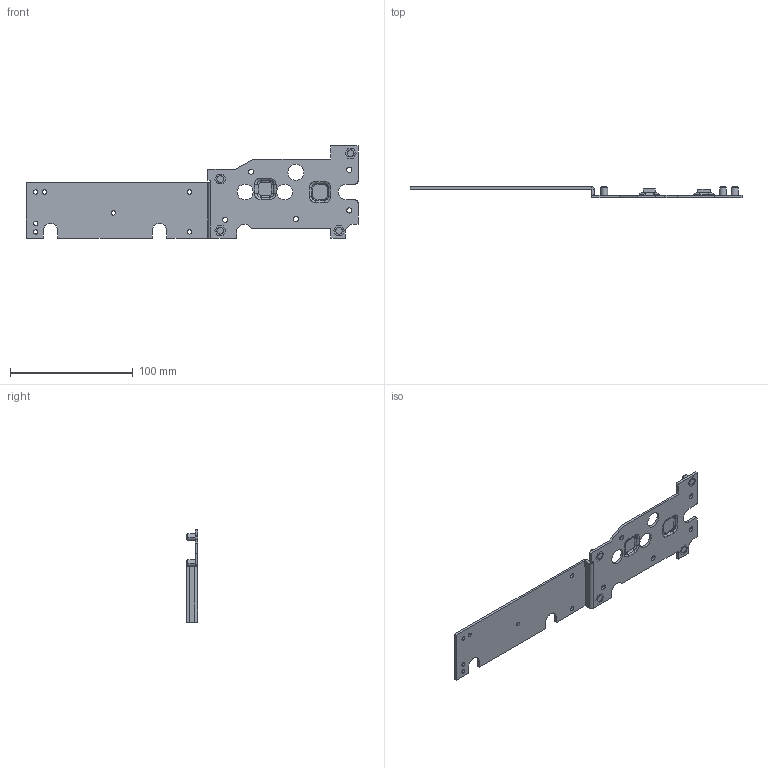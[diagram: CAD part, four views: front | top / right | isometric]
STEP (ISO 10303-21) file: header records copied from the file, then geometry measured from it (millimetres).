
FILE_DESCRIPTION((''),'2;1');
FILE_NAME('HEAT_SPREADER_AMP_BOTTOM_ASSY_ASM','2020-08-14T',('G6003023'),(''),'PRO/ENGINEER BY PARAMETRIC TECHNOLOGY CORPORATION, 2013150','PRO/ENGINEER BY PARAMETRIC TECHNOLOGY CORPORATION, 2013150','');
FILE_SCHEMA(('CONFIG_CONTROL_DESIGN'));
Length unit declared in the file: millimetre
Products named in the file (4): HEAT_SPREADER_AMP_BOTTOM; STAND-OFF-M3-03; THERMAL_PAD_01-AMP_BOTTOM; HEAT_SPREADER_AMP_BOTTOM_ASSY_ASM
Assembly tree (7 placements, depth 2):
  HEAT_SPREADER_AMP_BOTTOM_ASSY_ASM
    HEAT_SPREADER_AMP_BOTTOM
    STAND-OFF-M3-03  x4
    THERMAL_PAD_01-AMP_BOTTOM  x2
Bounding box: 270 x 9.2 x 75 mm (x, y, z)
Volume: 27399.7 mm3; surface area: 30248 mm2
Topology: 7 solids, 7 shells, 289 faces, 693 edges, 438 vertices
Faces by surface type: cylinder 123, plane 117, bspline 41, cone 8
Entity records: 9431 total; most frequent: CARTESIAN_POINT 4236, ORIENTED_EDGE 1086, DIRECTION 1011, EDGE_CURVE 543, AXIS2_PLACEMENT_3D 371, VERTEX_POINT 340, VECTOR 269, LINE 269
